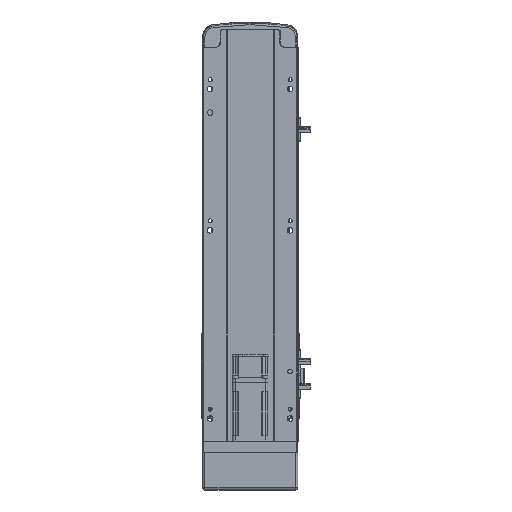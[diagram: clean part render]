
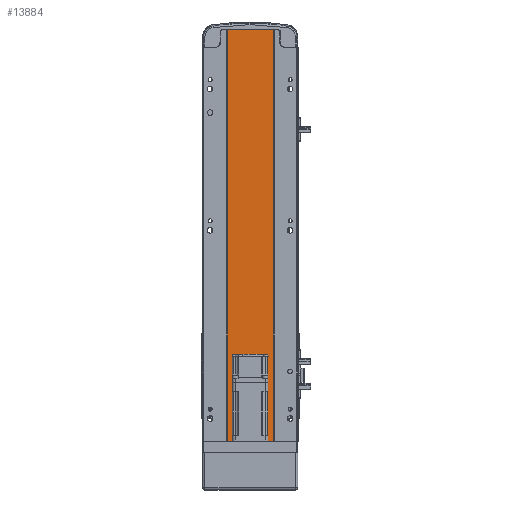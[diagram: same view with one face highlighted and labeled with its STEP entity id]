
A CAD part, front view. The second image highlights one B-rep face of the part: STEP entity #13884.
In plain terms, the highlighted planar face has unit normal (0, -1, 0).
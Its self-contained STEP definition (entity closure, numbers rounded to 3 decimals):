
#1051 = CARTESIAN_POINT ( 'NONE',  ( 24.5, 2., 437. ) ) ;
#1247 = VECTOR ( 'NONE', #49929, 1000. ) ;
#2593 = LINE ( 'NONE', #15399, #1247 ) ;
#2891 = VERTEX_POINT ( 'NONE', #1051 ) ;
#4658 = FACE_OUTER_BOUND ( 'NONE', #20405, .T. ) ;
#5571 = EDGE_CURVE ( 'NONE', #38387, #28492, #19245, .T. ) ;
#8053 = DIRECTION ( 'NONE',  ( 0., 0., -1. ) ) ;
#13884 = ADVANCED_FACE ( 'NONE', ( #4658 ), #42546, .F. ) ;
#14521 = CARTESIAN_POINT ( 'NONE',  ( 0., 2., 0. ) ) ;
#15123 = VECTOR ( 'NONE', #23651, 1000. ) ;
#15399 = CARTESIAN_POINT ( 'NONE',  ( -24.5, 2., 437. ) ) ;
#16271 = DIRECTION ( 'NONE',  ( 0., 0., -1. ) ) ;
#16558 = CARTESIAN_POINT ( 'NONE',  ( 24.5, 2., 0. ) ) ;
#19082 = LINE ( 'NONE', #20785, #32759 ) ;
#19245 = LINE ( 'NONE', #14521, #15123 ) ;
#19251 = ORIENTED_EDGE ( 'NONE', *, *, #36828, .F. ) ;
#20405 = EDGE_LOOP ( 'NONE', ( #34136, #29502, #19251, #36978 ) ) ;
#20785 = CARTESIAN_POINT ( 'NONE',  ( 24.5, 2., 437. ) ) ;
#20888 = VERTEX_POINT ( 'NONE', #25123 ) ;
#23455 = EDGE_CURVE ( 'NONE', #2891, #28492, #19082, .T. ) ;
#23651 = DIRECTION ( 'NONE',  ( 1., 0., 0. ) ) ;
#25123 = CARTESIAN_POINT ( 'NONE',  ( -24.5, 2., 437. ) ) ;
#25993 = CARTESIAN_POINT ( 'NONE',  ( -24.5, 2., 0. ) ) ;
#28492 = VERTEX_POINT ( 'NONE', #16558 ) ;
#29502 = ORIENTED_EDGE ( 'NONE', *, *, #23455, .F. ) ;
#32624 = AXIS2_PLACEMENT_3D ( 'NONE', #33586, #55689, #41987 ) ;
#32759 = VECTOR ( 'NONE', #8053, 1000. ) ;
#33586 = CARTESIAN_POINT ( 'NONE',  ( 0., 2., 437. ) ) ;
#34136 = ORIENTED_EDGE ( 'NONE', *, *, #5571, .T. ) ;
#36583 = VECTOR ( 'NONE', #16271, 1000. ) ;
#36828 = EDGE_CURVE ( 'NONE', #20888, #2891, #2593, .T. ) ;
#36978 = ORIENTED_EDGE ( 'NONE', *, *, #41280, .T. ) ;
#38387 = VERTEX_POINT ( 'NONE', #25993 ) ;
#41280 = EDGE_CURVE ( 'NONE', #20888, #38387, #48227, .T. ) ;
#41987 = DIRECTION ( 'NONE',  ( 0., 0., 1. ) ) ;
#42546 = PLANE ( 'NONE',  #32624 ) ;
#48227 = LINE ( 'NONE', #51711, #36583 ) ;
#49929 = DIRECTION ( 'NONE',  ( 1., 0., 0. ) ) ;
#51711 = CARTESIAN_POINT ( 'NONE',  ( -24.5, 2., 437. ) ) ;
#55689 = DIRECTION ( 'NONE',  ( 0., 1., 0. ) ) ;
